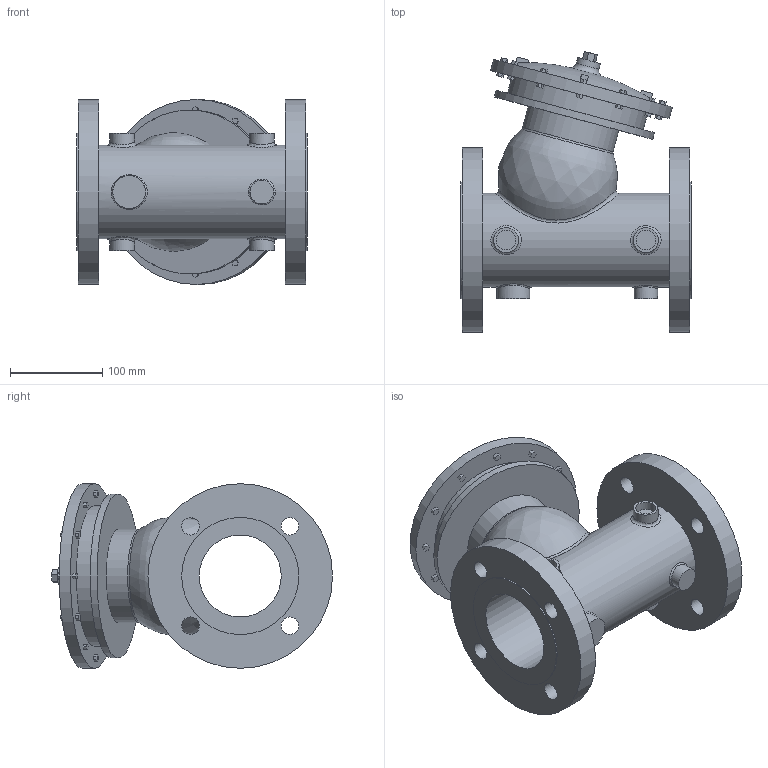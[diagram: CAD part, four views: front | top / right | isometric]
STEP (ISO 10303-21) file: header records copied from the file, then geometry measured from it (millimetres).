
FILE_DESCRIPTION(/* description */ ('VIC FP VALVE PRESSURE RELIEF SERIES 867-7UF (FLG 150)','CAx-IF Rec.Pracs.---Representation and Presentation of Product Manufacturing Information (PMI)---4.0---2014-10-13'),/* implementation_level */ '2;1');
FILE_NAME(/* name */ 'C:\Series 867-7UF\New folder (2)\step\Victaulic_FP-Bermad_Valve Pressure Relief_Series 867-7UF (FLG 150)\Victaulic_FP-Bermad_Valve Pressure Relief_Series 867-7UF (FLG 150)_3 (80).stp',/* time_stamp */ '2021-09-02T12:09:07+06:00',/* author */ ('kkamble'),/* organization */ ('Victaulic'),/* preprocessor_version */ 'ST-DEVELOPER v17.2',/* originating_system */ 'Autodesk Inventor 2019',/* authorisation */ '');
FILE_SCHEMA (('AP242_MANAGED_MODEL_BASED_3D_ENGINEERING_MIM_LF { 1 0 10303 442 1 1 4 }'));
Length unit declared in the file: inch
Products named in the file (1): 867-7UF-03.0
Bounding box: 249.94 x 304.8 x 200.66 mm (x, y, z)
Volume: 3621279.2 mm3; surface area: 430044.5 mm2
Topology: 6 solids, 6 shells, 262 faces, 655 edges, 445 vertices
Faces by surface type: plane 216, cylinder 35, bspline 9, torus 2
Full cylindrical faces by diameter (mm): 19.05 x8, 21.336 x4, 25.4 x2, 26.873 x4, 35.56 x1, 88.9 x1, 101.6 x2, 127 x2, 152.4 x1, 177.8 x1, 200.152 x2, 200.66 x1
Entity records: 9231 total; most frequent: CARTESIAN_POINT 2536, ORIENTED_EDGE 1322, DIRECTION 1230, EDGE_CURVE 661, LINE 520, VECTOR 520, VERTEX_POINT 451, AXIS2_PLACEMENT_3D 355
